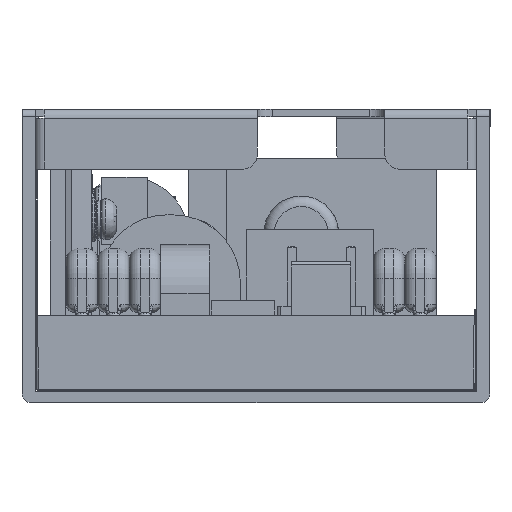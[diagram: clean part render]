
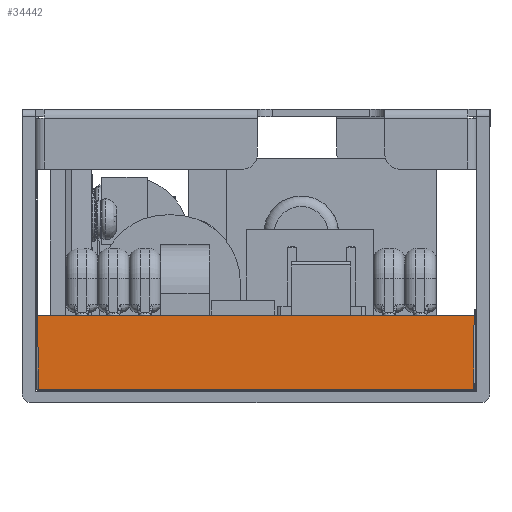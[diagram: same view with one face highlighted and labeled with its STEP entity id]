
A CAD part, left-side view. The second image highlights one B-rep face of the part: STEP entity #34442.
In plain terms, the highlighted planar face has unit normal (-1, 0, -0.009) as drawn and (0, -1, -0.009) by its records, which use the part's own axes.
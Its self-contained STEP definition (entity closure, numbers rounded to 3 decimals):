
#2461=LINE($,#49146,#6063);
#2464=LINE($,#49153,#6066);
#2465=LINE($,#49157,#6067);
#2481=LINE($,#49198,#6083);
#6063=VECTOR($,#40633,58.103);
#6066=VECTOR($,#40642,9.802);
#6067=VECTOR($,#40647,9.802);
#6083=VECTOR($,#40697,58.275);
#9363=PLANE($,#36789);
#11874=FACE_OUTER_BOUND($,#14173,.T.);
#14173=EDGE_LOOP($,(#26387,#26388,#26389,#26390));
#17206=VERTEX_POINT($,#49136);
#17207=VERTEX_POINT($,#49140);
#17209=VERTEX_POINT($,#49151);
#17210=VERTEX_POINT($,#49155);
#20668=EDGE_CURVE($,#17207,#17206,#2461,.T.);
#20672=EDGE_CURVE($,#17209,#17207,#2464,.T.);
#20674=EDGE_CURVE($,#17206,#17210,#2465,.T.);
#20694=EDGE_CURVE($,#17209,#17210,#2481,.T.);
#26387=ORIENTED_EDGE($,*,*,#20672,.F.);
#26388=ORIENTED_EDGE($,*,*,#20694,.T.);
#26389=ORIENTED_EDGE($,*,*,#20674,.F.);
#26390=ORIENTED_EDGE($,*,*,#20668,.F.);
#34442=ADVANCED_FACE($,(#11874),#9363,.T.);
#36789=AXIS2_PLACEMENT_3D($,#49197,#40695,#40696);
#40633=DIRECTION($,(-1.,0.,0.));
#40642=DIRECTION($,(-0.009,0.009,-1.));
#40647=DIRECTION($,(-0.009,-0.009,1.));
#40695=DIRECTION('center_axis',(0.,-1.,-0.009));
#40696=DIRECTION('ref_axis',(1.,0.,0.));
#40697=DIRECTION($,(-1.,0.,0.));
#49136=CARTESIAN_POINT('',(0.198,89.01,0.198));
#49140=CARTESIAN_POINT('',(58.302,89.01,0.198));
#49146=CARTESIAN_POINT($,(43.875,89.01,0.198));
#49151=CARTESIAN_POINT('',(58.387,88.925,10.));
#49153=CARTESIAN_POINT($,(58.3,89.013,-0.042));
#49155=CARTESIAN_POINT('',(0.113,88.925,10.));
#49157=CARTESIAN_POINT($,(0.202,89.014,-0.253));
#49197=CARTESIAN_POINT('Origin',(58.5,89.012,0.));
#49198=CARTESIAN_POINT($,(0.,88.925,10.));
